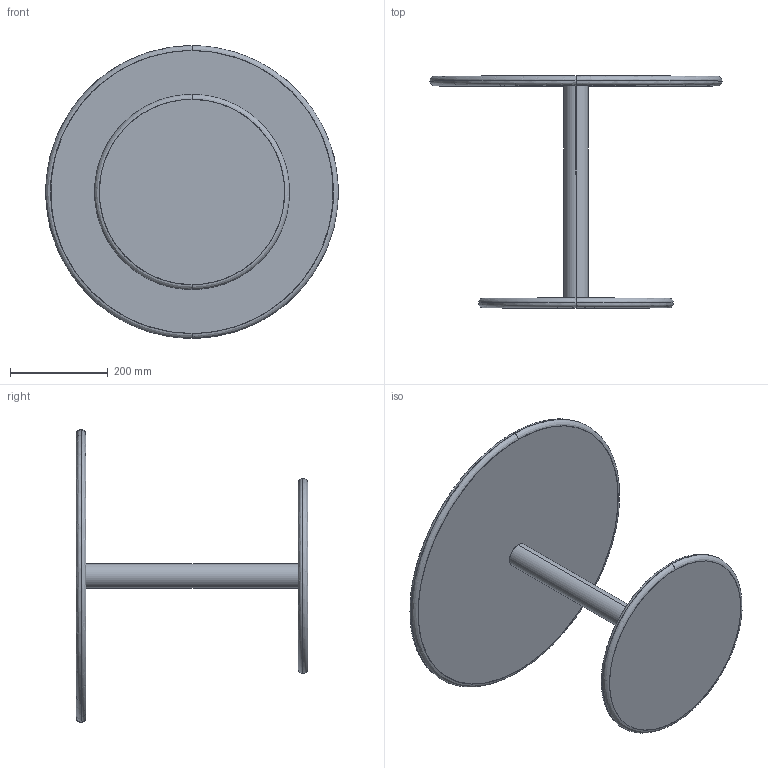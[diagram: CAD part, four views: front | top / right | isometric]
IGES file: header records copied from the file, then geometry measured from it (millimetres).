
Start section: SolidWorks IGES file using analytic representation for surfaces
Global section: file name: C:\Users\Usuario\Dropbox\Viccarbe\PRODUCTOS\5- Common mesa\Web\3D\Common mesa_Mesa 475.IGS; native system: SolidWorks 2013; preprocessor: SolidWorks 2013; author: Usuario; date: 130604.113938; units: millimetre
Bounding box: 599.46 x 475 x 600 mm (x, y, z)
Surface area: 924757.5 mm2 (no closed solid volume)
Topology: 0 solids, 0 shells, 16 faces, 424 edges, 424 vertices
Faces by surface type: bspline 14, revolution 2
